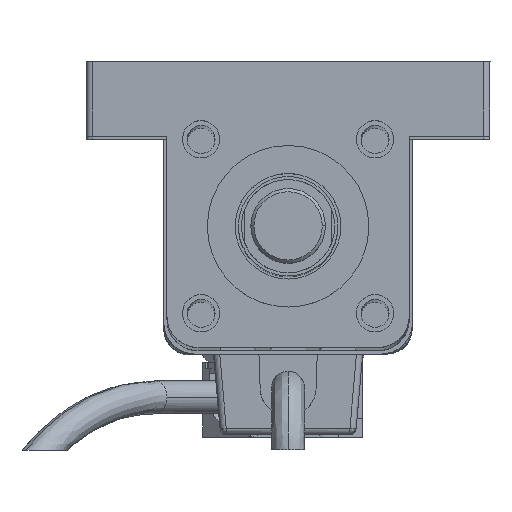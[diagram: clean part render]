
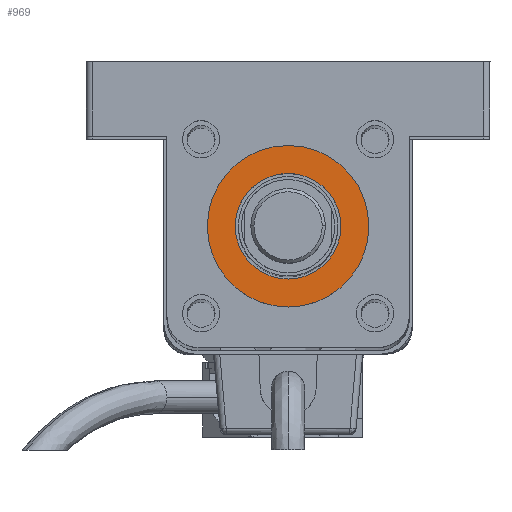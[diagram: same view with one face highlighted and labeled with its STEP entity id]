
A CAD part, top view. The second image highlights one B-rep face of the part: STEP entity #969.
In plain terms, the highlighted planar face has unit normal (0, 0, 1) as drawn and (0, 0, -1) by its records, which use the part's own axes.
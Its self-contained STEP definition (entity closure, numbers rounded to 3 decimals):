
#969 = ADVANCED_FACE ( 'NONE', ( #5183, #28784 ), #22581, .T. ) ;
#1188 = VERTEX_POINT ( 'NONE', #22061 ) ;
#2901 = VERTEX_POINT ( 'NONE', #16236 ) ;
#3041 = EDGE_CURVE ( 'NONE', #12856, #14646, #10714, .T. ) ;
#3785 = DIRECTION ( 'NONE',  ( 0., 0., -1. ) ) ;
#5183 = FACE_BOUND ( 'NONE', #20850, .T. ) ;
#5390 = AXIS2_PLACEMENT_3D ( 'NONE', #21256, #7744, #11777 ) ;
#6055 = DIRECTION ( 'NONE',  ( -1., 0., 0. ) ) ;
#6067 = AXIS2_PLACEMENT_3D ( 'NONE', #19558, #26430, #10782 ) ;
#6629 = EDGE_CURVE ( 'NONE', #14646, #12856, #27823, .T. ) ;
#7098 = CARTESIAN_POINT ( 'NONE',  ( 19.5, -19.5, -3. ) ) ;
#7721 = AXIS2_PLACEMENT_3D ( 'NONE', #7098, #9390, #9292 ) ;
#7744 = DIRECTION ( 'NONE',  ( 0., 0., -1. ) ) ;
#9292 = DIRECTION ( 'NONE',  ( -1., 0., 0. ) ) ;
#9389 = CIRCLE ( 'NONE', #20757, 8.5 ) ;
#9390 = DIRECTION ( 'NONE',  ( 0., 0., -1. ) ) ;
#10222 = ORIENTED_EDGE ( 'NONE', *, *, #19282, .F. ) ;
#10714 = CIRCLE ( 'NONE', #6067, 13. ) ;
#10782 = DIRECTION ( 'NONE',  ( -1., 0., 0. ) ) ;
#11777 = DIRECTION ( 'NONE',  ( -1., 0., 0. ) ) ;
#12856 = VERTEX_POINT ( 'NONE', #16599 ) ;
#12948 = ORIENTED_EDGE ( 'NONE', *, *, #18080, .F. ) ;
#14646 = VERTEX_POINT ( 'NONE', #21388 ) ;
#14917 = AXIS2_PLACEMENT_3D ( 'NONE', #21977, #17639, #15480 ) ;
#15165 = ORIENTED_EDGE ( 'NONE', *, *, #6629, .T. ) ;
#15480 = DIRECTION ( 'NONE',  ( -1., 0., 0. ) ) ;
#16236 = CARTESIAN_POINT ( 'NONE',  ( 28., -19.5, -3. ) ) ;
#16599 = CARTESIAN_POINT ( 'NONE',  ( 6.5, -19.5, -3. ) ) ;
#16822 = CIRCLE ( 'NONE', #14917, 8.5 ) ;
#17639 = DIRECTION ( 'NONE',  ( 0., 0., -1. ) ) ;
#18080 = EDGE_CURVE ( 'NONE', #1188, #2901, #9389, .T. ) ;
#18228 = ORIENTED_EDGE ( 'NONE', *, *, #3041, .T. ) ;
#19282 = EDGE_CURVE ( 'NONE', #2901, #1188, #16822, .T. ) ;
#19558 = CARTESIAN_POINT ( 'NONE',  ( 19.5, -19.5, -3. ) ) ;
#20757 = AXIS2_PLACEMENT_3D ( 'NONE', #24265, #3785, #6055 ) ;
#20850 = EDGE_LOOP ( 'NONE', ( #12948, #10222 ) ) ;
#21256 = CARTESIAN_POINT ( 'NONE',  ( 19.5, -19.5, -3. ) ) ;
#21388 = CARTESIAN_POINT ( 'NONE',  ( 32.5, -19.5, -3. ) ) ;
#21637 = EDGE_LOOP ( 'NONE', ( #15165, #18228 ) ) ;
#21977 = CARTESIAN_POINT ( 'NONE',  ( 19.5, -19.5, -3. ) ) ;
#22061 = CARTESIAN_POINT ( 'NONE',  ( 11., -19.5, -3. ) ) ;
#22581 = PLANE ( 'NONE',  #7721 ) ;
#24265 = CARTESIAN_POINT ( 'NONE',  ( 19.5, -19.5, -3. ) ) ;
#26430 = DIRECTION ( 'NONE',  ( 0., 0., -1. ) ) ;
#27823 = CIRCLE ( 'NONE', #5390, 13. ) ;
#28784 = FACE_OUTER_BOUND ( 'NONE', #21637, .T. ) ;
